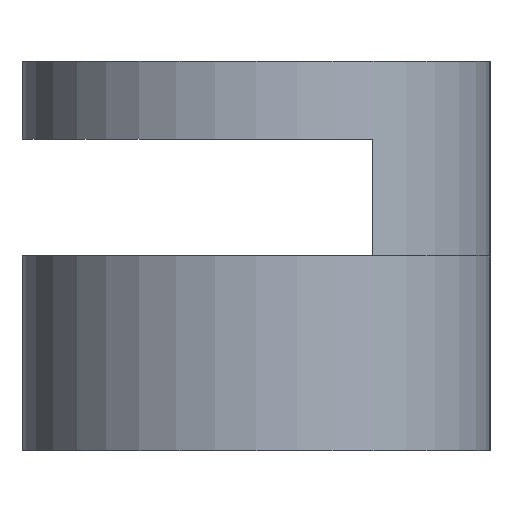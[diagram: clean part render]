
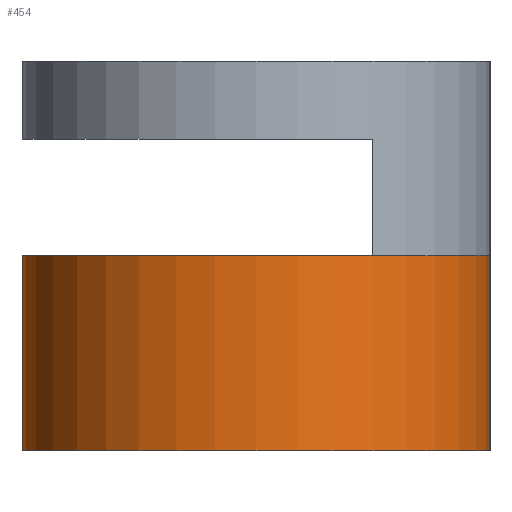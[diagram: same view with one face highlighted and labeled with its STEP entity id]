
A CAD part, left-side view. The second image highlights one B-rep face of the part: STEP entity #454.
In plain terms, the highlighted cylindrical face has radius 6 mm (diameter 12 mm), a partial arc.
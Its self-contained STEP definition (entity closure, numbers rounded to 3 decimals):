
#454=ADVANCED_FACE('',(#1052),#1054,.T.);
#1052=FACE_BOUND('',#1053,.T.);
#1053=EDGE_LOOP('',(#1340,#1341,#1342,#1343));
#1054=CYLINDRICAL_SURFACE('',#1055,6.);
#1055=AXIS2_PLACEMENT_3D('',#1056,#1057,#1058);
#1056=CARTESIAN_POINT('',(6.,6.,0.));
#1057=DIRECTION('',(0.,0.,1.));
#1058=DIRECTION('',(0.,1.,0.));
#1340=ORIENTED_EDGE('',*,*,#1418,.T.);
#1341=ORIENTED_EDGE('',*,*,#1490,.T.);
#1342=ORIENTED_EDGE('',*,*,#1494,.F.);
#1343=ORIENTED_EDGE('',*,*,#1467,.F.);
#1418=EDGE_CURVE('',#1580,#1581,#1582,.T.);
#1467=EDGE_CURVE('',#1580,#1677,#1678,.T.);
#1490=EDGE_CURVE('',#1581,#1710,#1712,.T.);
#1494=EDGE_CURVE('',#1677,#1710,#1718,.T.);
#1580=VERTEX_POINT('',#1920);
#1581=VERTEX_POINT('',#1921);
#1582=CIRCLE('',#1922,6.);
#1677=VERTEX_POINT('',#2153);
#1678=LINE('',#2154,#2155);
#1710=VERTEX_POINT('',#2235);
#1712=LINE('',#2239,#2240);
#1718=CIRCLE('',#2256,6.);
#1920=CARTESIAN_POINT('',(6.,12.,0.));
#1921=CARTESIAN_POINT('',(6.,0.,0.));
#1922=AXIS2_PLACEMENT_3D('',#1923,#1924,#1925);
#1923=CARTESIAN_POINT('',(6.,6.,0.));
#1924=DIRECTION('',(0.,0.,1.));
#1925=DIRECTION('',(0.,1.,0.));
#2153=CARTESIAN_POINT('',(6.,12.,5.));
#2154=CARTESIAN_POINT('',(6.,12.,0.));
#2155=VECTOR('',#2156,1.);
#2156=DIRECTION('',(0.,0.,1.));
#2235=CARTESIAN_POINT('',(6.,0.,5.));
#2239=CARTESIAN_POINT('',(6.,0.,0.));
#2240=VECTOR('',#2241,1.);
#2241=DIRECTION('',(0.,0.,1.));
#2256=AXIS2_PLACEMENT_3D('',#2257,#2258,#2259);
#2257=CARTESIAN_POINT('',(6.,6.,5.));
#2258=DIRECTION('',(0.,0.,1.));
#2259=DIRECTION('',(0.,1.,0.));
